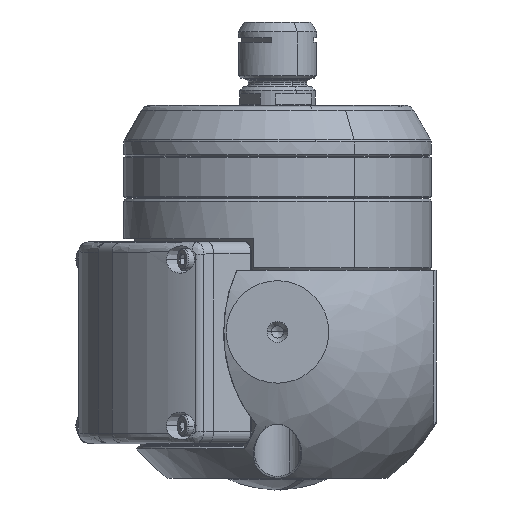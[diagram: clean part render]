
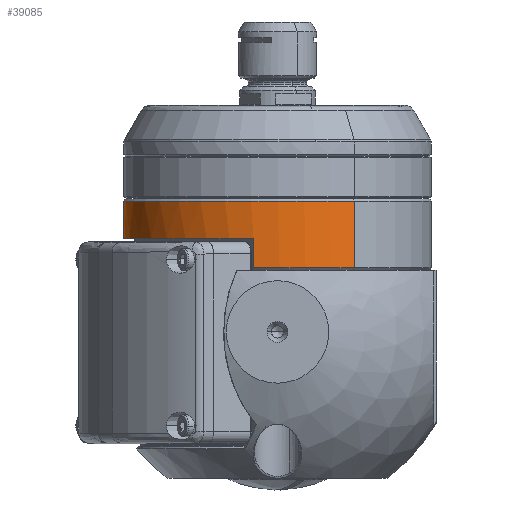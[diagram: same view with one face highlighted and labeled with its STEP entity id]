
A CAD part, front view. The second image highlights one B-rep face of the part: STEP entity #39085.
In plain terms, the highlighted cylindrical face has radius 31.5 mm (diameter 63 mm), a partial arc.
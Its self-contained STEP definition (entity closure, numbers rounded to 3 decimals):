
#623 = VERTEX_POINT ( 'NONE', #11169 ) ;
#1277 = DIRECTION ( 'NONE',  ( 0., 0., -1. ) ) ;
#4491 = ORIENTED_EDGE ( 'NONE', *, *, #32294, .T. ) ;
#4517 = CARTESIAN_POINT ( 'NONE',  ( 0., 14.2, 0. ) ) ;
#4660 = CARTESIAN_POINT ( 'NONE',  ( -19.8, 14.2, -24.499 ) ) ;
#5270 = VECTOR ( 'NONE', #19538, 1000. ) ;
#5380 = CIRCLE ( 'NONE', #29061, 31.5 ) ;
#5848 = ORIENTED_EDGE ( 'NONE', *, *, #12711, .T. ) ;
#6056 = DIRECTION ( 'NONE',  ( 0., 0., -1. ) ) ;
#7692 = ORIENTED_EDGE ( 'NONE', *, *, #38192, .T. ) ;
#7993 = VECTOR ( 'NONE', #30032, 1000. ) ;
#8215 = DIRECTION ( 'NONE',  ( 0., -1., 0. ) ) ;
#8740 = ORIENTED_EDGE ( 'NONE', *, *, #13329, .T. ) ;
#8926 = VERTEX_POINT ( 'NONE', #34439 ) ;
#9684 = DIRECTION ( 'NONE',  ( 0., -1., 0. ) ) ;
#10890 = ORIENTED_EDGE ( 'NONE', *, *, #17488, .F. ) ;
#11169 = CARTESIAN_POINT ( 'NONE',  ( 0., 14.2, -31.5 ) ) ;
#12711 = EDGE_CURVE ( 'NONE', #45093, #42701, #37057, .T. ) ;
#13329 = EDGE_CURVE ( 'NONE', #42701, #45713, #36505, .T. ) ;
#13343 = VERTEX_POINT ( 'NONE', #15160 ) ;
#13532 = LINE ( 'NONE', #31411, #13873 ) ;
#13873 = VECTOR ( 'NONE', #34865, 1000. ) ;
#15160 = CARTESIAN_POINT ( 'NONE',  ( 0., 14.2, 31.5 ) ) ;
#17488 = EDGE_CURVE ( 'NONE', #19440, #8926, #41946, .T. ) ;
#18236 = AXIS2_PLACEMENT_3D ( 'NONE', #29742, #29966, #40601 ) ;
#19346 = LINE ( 'NONE', #22391, #7993 ) ;
#19440 = VERTEX_POINT ( 'NONE', #31289 ) ;
#19538 = DIRECTION ( 'NONE',  ( 0., 1., 0. ) ) ;
#20178 = ORIENTED_EDGE ( 'NONE', *, *, #20305, .T. ) ;
#20305 = EDGE_CURVE ( 'NONE', #37191, #45093, #19346, .T. ) ;
#20338 = EDGE_CURVE ( 'NONE', #623, #8926, #13532, .T. ) ;
#20543 = FACE_OUTER_BOUND ( 'NONE', #25500, .T. ) ;
#20781 = DIRECTION ( 'NONE',  ( 0., 0., -1. ) ) ;
#20862 = DIRECTION ( 'NONE',  ( 0., -1., 0. ) ) ;
#22391 = CARTESIAN_POINT ( 'NONE',  ( -19.8, 0., 24.499 ) ) ;
#23819 = DIRECTION ( 'NONE',  ( 0., 0., -1. ) ) ;
#24300 = ORIENTED_EDGE ( 'NONE', *, *, #29172, .F. ) ;
#25500 = EDGE_LOOP ( 'NONE', ( #24300, #7692, #20178, #5848, #8740, #4491, #29399, #10890 ) ) ;
#27405 = AXIS2_PLACEMENT_3D ( 'NONE', #41435, #9684, #23819 ) ;
#27556 = CIRCLE ( 'NONE', #33470, 31.5 ) ;
#28426 = CYLINDRICAL_SURFACE ( 'NONE', #43160, 31.5 ) ;
#29061 = AXIS2_PLACEMENT_3D ( 'NONE', #4517, #8215, #1277 ) ;
#29172 = EDGE_CURVE ( 'NONE', #13343, #19440, #36869, .T. ) ;
#29399 = ORIENTED_EDGE ( 'NONE', *, *, #20338, .T. ) ;
#29742 = CARTESIAN_POINT ( 'NONE',  ( 0., 0.5, 0. ) ) ;
#29966 = DIRECTION ( 'NONE',  ( 0., -1., 0. ) ) ;
#30032 = DIRECTION ( 'NONE',  ( 0., -1., 0. ) ) ;
#31289 = CARTESIAN_POINT ( 'NONE',  ( 0., 0.5, 31.5 ) ) ;
#31411 = CARTESIAN_POINT ( 'NONE',  ( 0., 0., -31.5 ) ) ;
#31465 = DIRECTION ( 'NONE',  ( 0., -1., 0. ) ) ;
#31869 = CARTESIAN_POINT ( 'NONE',  ( -19.8, 8.2, -24.499 ) ) ;
#32294 = EDGE_CURVE ( 'NONE', #45713, #623, #27556, .T. ) ;
#33470 = AXIS2_PLACEMENT_3D ( 'NONE', #45410, #20862, #6056 ) ;
#34439 = CARTESIAN_POINT ( 'NONE',  ( 0., 0.5, -31.5 ) ) ;
#34865 = DIRECTION ( 'NONE',  ( 0., -1., 0. ) ) ;
#36185 = CARTESIAN_POINT ( 'NONE',  ( 0., 0., 31.5 ) ) ;
#36505 = LINE ( 'NONE', #37175, #5270 ) ;
#36869 = LINE ( 'NONE', #36185, #40633 ) ;
#37057 = CIRCLE ( 'NONE', #27405, 31.5 ) ;
#37175 = CARTESIAN_POINT ( 'NONE',  ( -19.8, 0., -24.499 ) ) ;
#37191 = VERTEX_POINT ( 'NONE', #44020 ) ;
#38192 = EDGE_CURVE ( 'NONE', #13343, #37191, #5380, .T. ) ;
#39085 = ADVANCED_FACE ( 'NONE', ( #20543 ), #28426, .T. ) ;
#40601 = DIRECTION ( 'NONE',  ( 1., 0., 0. ) ) ;
#40633 = VECTOR ( 'NONE', #44255, 1000. ) ;
#41435 = CARTESIAN_POINT ( 'NONE',  ( 0., 8.2, 0. ) ) ;
#41946 = CIRCLE ( 'NONE', #18236, 31.5 ) ;
#42571 = CARTESIAN_POINT ( 'NONE',  ( -19.8, 8.2, 24.499 ) ) ;
#42701 = VERTEX_POINT ( 'NONE', #31869 ) ;
#43160 = AXIS2_PLACEMENT_3D ( 'NONE', #45566, #31465, #20781 ) ;
#44020 = CARTESIAN_POINT ( 'NONE',  ( -19.8, 14.2, 24.499 ) ) ;
#44255 = DIRECTION ( 'NONE',  ( 0., -1., 0. ) ) ;
#45093 = VERTEX_POINT ( 'NONE', #42571 ) ;
#45410 = CARTESIAN_POINT ( 'NONE',  ( 0., 14.2, 0. ) ) ;
#45566 = CARTESIAN_POINT ( 'NONE',  ( 0., 0., 0. ) ) ;
#45713 = VERTEX_POINT ( 'NONE', #4660 ) ;
